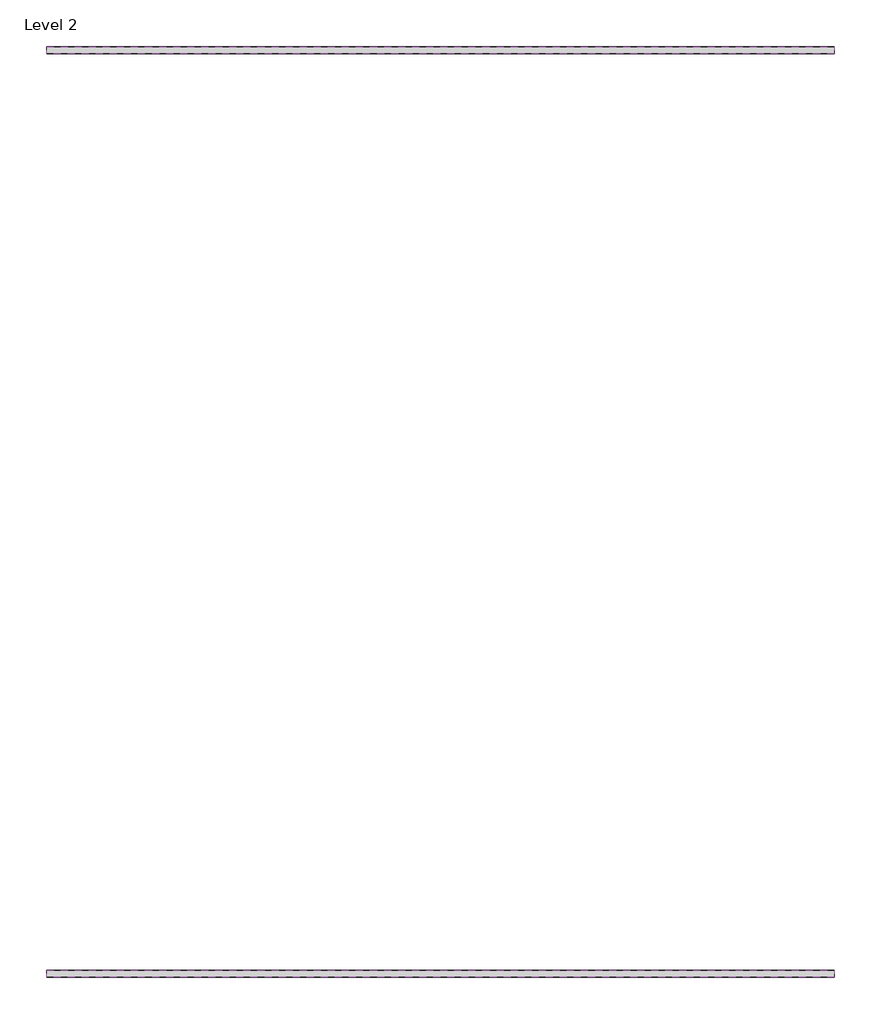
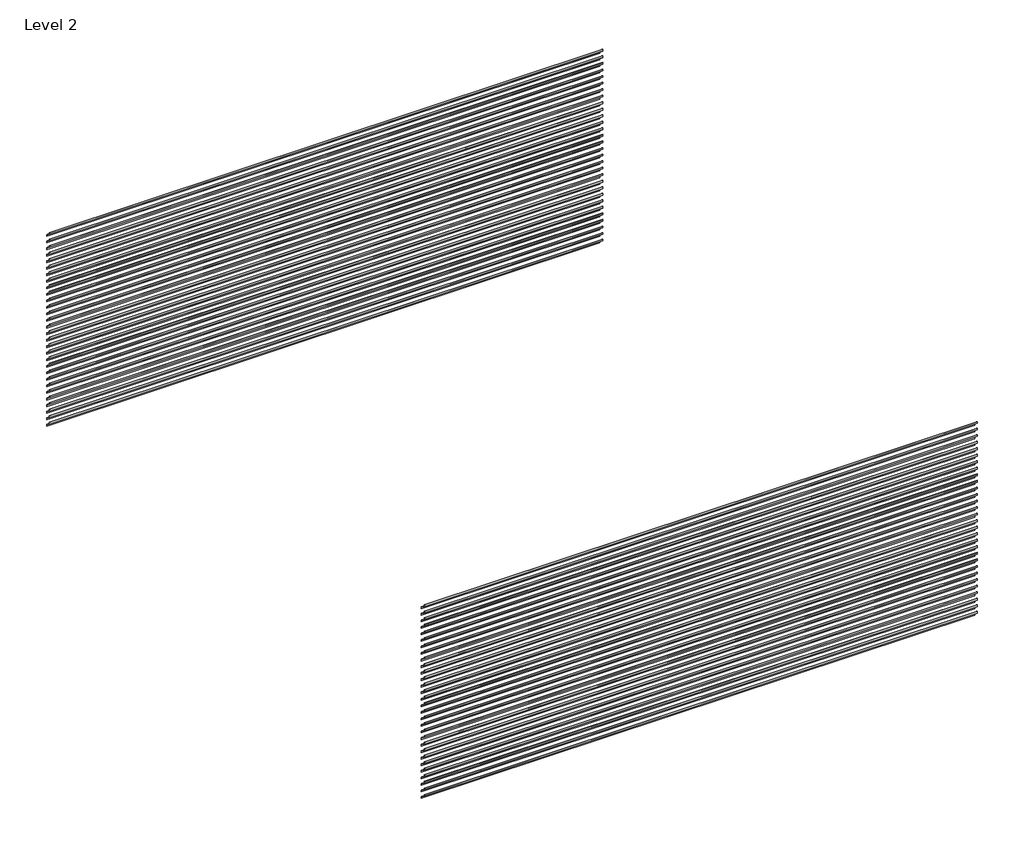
# One storey: 60 proxies.
"""IFC4 building model written with IfcOpenShell, lengths in millimetres."""

from ifc_helpers import new_model, si_unit, frame, origin, place, context, project, spatial, polyline, outline, extrude, element, save

model = new_model("IFC4")

# Units and contexts
model_context = context("Model", 3, world=origin())
ifc_project = project(units=[si_unit("LENGTHUNIT", "METRE", prefix="MILLI")], contexts=[model_context])

# Site, building, storey
site = spatial("IfcSite", under=ifc_project)
building = spatial("IfcBuilding", under=site)
storey = spatial("IfcBuildingStorey", under=building, Name="Level 2", Elevation=3000.0)

# Proxies
placement = place(None, origin())
element("IfcBuildingElementProxy", 1, Name="Wall Sweeps", at=placement, inside=storey, context=model_context, shape_type="SweptSolid", body=[
    extrude(outline(polyline([(12081.0540136, 5268.5), (12081.0540136, 5248.5), (12079.8040136, 5249.2216933), (12079.8040136, 5267.7872415), (12026.0540136, 5305.3158044), (12026.0540136, 5325.0), (12027.3040136, 5325.0), (12027.3040136, 5306.0285629), (12081.0540136, 5268.5)])), frame((466.6208097, 0.0, 0.0), z_axis=(1.0, 0.0, 0.0), x_axis=(0.0, 1.0, 0.0)), (0.0, 0.0, 1.0), 6000.0),
])
element("IfcBuildingElementProxy", 2, Name="Wall Sweeps", at=placement, inside=storey, context=model_context, shape_type="SweptSolid", body=[
    extrude(outline(polyline([(12081.0540136, 5193.5), (12081.0540136, 5173.5), (12079.8040136, 5174.2216933), (12079.8040136, 5192.7872415), (12026.0540136, 5230.3158044), (12026.0540136, 5250.0), (12027.3040136, 5250.0), (12027.3040136, 5231.0285629), (12081.0540136, 5193.5)])), frame((466.6208097, 0.0, 0.0), z_axis=(1.0, 0.0, 0.0), x_axis=(0.0, 1.0, 0.0)), (0.0, 0.0, 1.0), 6000.0),
])
element("IfcBuildingElementProxy", 3, Name="Wall Sweeps", at=placement, inside=storey, context=model_context, shape_type="SweptSolid", body=[
    extrude(outline(polyline([(12081.0540136, 5118.5), (12081.0540136, 5098.5), (12079.8040136, 5099.2216933), (12079.8040136, 5117.7872415), (12026.0540136, 5155.3158044), (12026.0540136, 5175.0), (12027.3040136, 5175.0), (12027.3040136, 5156.0285629), (12081.0540136, 5118.5)])), frame((466.6208097, 0.0, 0.0), z_axis=(1.0, 0.0, 0.0), x_axis=(0.0, 1.0, 0.0)), (0.0, 0.0, 1.0), 6000.0),
])
element("IfcBuildingElementProxy", 4, Name="Wall Sweeps", at=placement, inside=storey, context=model_context, shape_type="SweptSolid", body=[
    extrude(outline(polyline([(12081.0540136, 5043.5), (12081.0540136, 5023.5), (12079.8040136, 5024.2216933), (12079.8040136, 5042.7872415), (12026.0540136, 5080.3158044), (12026.0540136, 5100.0), (12027.3040136, 5100.0), (12027.3040136, 5081.0285629), (12081.0540136, 5043.5)])), frame((466.6208097, 0.0, 0.0), z_axis=(1.0, 0.0, 0.0), x_axis=(0.0, 1.0, 0.0)), (0.0, 0.0, 1.0), 6000.0),
])
element("IfcBuildingElementProxy", 5, Name="Wall Sweeps", at=placement, inside=storey, context=model_context, shape_type="SweptSolid", body=[
    extrude(outline(polyline([(12081.0540136, 4968.5), (12081.0540136, 4948.5), (12079.8040136, 4949.2216933), (12079.8040136, 4967.7872415), (12026.0540136, 5005.3158044), (12026.0540136, 5025.0), (12027.3040136, 5025.0), (12027.3040136, 5006.0285629), (12081.0540136, 4968.5)])), frame((466.6208097, 0.0, 0.0), z_axis=(1.0, 0.0, 0.0), x_axis=(0.0, 1.0, 0.0)), (0.0, 0.0, 1.0), 6000.0),
])
element("IfcBuildingElementProxy", 6, Name="Wall Sweeps", at=placement, inside=storey, context=model_context, shape_type="SweptSolid", body=[
    extrude(outline(polyline([(12081.0540136, 4893.5), (12081.0540136, 4873.5), (12079.8040136, 4874.2216933), (12079.8040136, 4892.7872415), (12026.0540136, 4930.3158044), (12026.0540136, 4950.0), (12027.3040136, 4950.0), (12027.3040136, 4931.0285629), (12081.0540136, 4893.5)])), frame((466.6208097, 0.0, 0.0), z_axis=(1.0, 0.0, 0.0), x_axis=(0.0, 1.0, 0.0)), (0.0, 0.0, 1.0), 6000.0),
])
element("IfcBuildingElementProxy", 7, Name="Wall Sweeps", at=placement, inside=storey, context=model_context, shape_type="SweptSolid", body=[
    extrude(outline(polyline([(12081.0540136, 4818.5), (12081.0540136, 4798.5), (12079.8040136, 4799.2216933), (12079.8040136, 4817.7872415), (12026.0540136, 4855.3158044), (12026.0540136, 4875.0), (12027.3040136, 4875.0), (12027.3040136, 4856.0285629), (12081.0540136, 4818.5)])), frame((466.6208097, 0.0, 0.0), z_axis=(1.0, 0.0, 0.0), x_axis=(0.0, 1.0, 0.0)), (0.0, 0.0, 1.0), 6000.0),
])
element("IfcBuildingElementProxy", 8, Name="Wall Sweeps", at=placement, inside=storey, context=model_context, shape_type="SweptSolid", body=[
    extrude(outline(polyline([(12081.0540136, 4743.5), (12081.0540136, 4723.5), (12079.8040136, 4724.2216933), (12079.8040136, 4742.7872415), (12026.0540136, 4780.3158044), (12026.0540136, 4800.0), (12027.3040136, 4800.0), (12027.3040136, 4781.0285629), (12081.0540136, 4743.5)])), frame((466.6208097, 0.0, 0.0), z_axis=(1.0, 0.0, 0.0), x_axis=(0.0, 1.0, 0.0)), (0.0, 0.0, 1.0), 6000.0),
])
element("IfcBuildingElementProxy", 9, Name="Wall Sweeps", at=placement, inside=storey, context=model_context, shape_type="SweptSolid", body=[
    extrude(outline(polyline([(12081.0540136, 4668.5), (12081.0540136, 4648.5), (12079.8040136, 4649.2216933), (12079.8040136, 4667.7872415), (12026.0540136, 4705.3158044), (12026.0540136, 4725.0), (12027.3040136, 4725.0), (12027.3040136, 4706.0285629), (12081.0540136, 4668.5)])), frame((466.6208097, 0.0, 0.0), z_axis=(1.0, 0.0, 0.0), x_axis=(0.0, 1.0, 0.0)), (0.0, 0.0, 1.0), 6000.0),
])
element("IfcBuildingElementProxy", 10, Name="Wall Sweeps", at=placement, inside=storey, context=model_context, shape_type="SweptSolid", body=[
    extrude(outline(polyline([(12081.0540136, 4593.5), (12081.0540136, 4573.5), (12079.8040136, 4574.2216933), (12079.8040136, 4592.7872415), (12026.0540136, 4630.3158044), (12026.0540136, 4650.0), (12027.3040136, 4650.0), (12027.3040136, 4631.0285629), (12081.0540136, 4593.5)])), frame((466.6208097, 0.0, 0.0), z_axis=(1.0, 0.0, 0.0), x_axis=(0.0, 1.0, 0.0)), (0.0, 0.0, 1.0), 6000.0),
])
element("IfcBuildingElementProxy", 11, Name="Wall Sweeps", at=placement, inside=storey, context=model_context, shape_type="SweptSolid", body=[
    extrude(outline(polyline([(12081.0540136, 4518.5), (12081.0540136, 4498.5), (12079.8040136, 4499.2216933), (12079.8040136, 4517.7872415), (12026.0540136, 4555.3158044), (12026.0540136, 4575.0), (12027.3040136, 4575.0), (12027.3040136, 4556.0285629), (12081.0540136, 4518.5)])), frame((466.6208097, 0.0, 0.0), z_axis=(1.0, 0.0, 0.0), x_axis=(0.0, 1.0, 0.0)), (0.0, 0.0, 1.0), 6000.0),
])
element("IfcBuildingElementProxy", 12, Name="Wall Sweeps", at=placement, inside=storey, context=model_context, shape_type="SweptSolid", body=[
    extrude(outline(polyline([(12081.0540136, 4443.5), (12081.0540136, 4423.5), (12079.8040136, 4424.2216933), (12079.8040136, 4442.7872415), (12026.0540136, 4480.3158044), (12026.0540136, 4500.0), (12027.3040136, 4500.0), (12027.3040136, 4481.0285629), (12081.0540136, 4443.5)])), frame((466.6208097, 0.0, 0.0), z_axis=(1.0, 0.0, 0.0), x_axis=(0.0, 1.0, 0.0)), (0.0, 0.0, 1.0), 6000.0),
])
element("IfcBuildingElementProxy", 13, Name="Wall Sweeps", at=placement, inside=storey, context=model_context, shape_type="SweptSolid", body=[
    extrude(outline(polyline([(12081.0540136, 4368.5), (12081.0540136, 4348.5), (12079.8040136, 4349.2216933), (12079.8040136, 4367.7872415), (12026.0540136, 4405.3158044), (12026.0540136, 4425.0), (12027.3040136, 4425.0), (12027.3040136, 4406.0285629), (12081.0540136, 4368.5)])), frame((466.6208097, 0.0, 0.0), z_axis=(1.0, 0.0, 0.0), x_axis=(0.0, 1.0, 0.0)), (0.0, 0.0, 1.0), 6000.0),
])
element("IfcBuildingElementProxy", 14, Name="Wall Sweeps", at=placement, inside=storey, context=model_context, shape_type="SweptSolid", body=[
    extrude(outline(polyline([(12081.0540136, 4293.5), (12081.0540136, 4273.5), (12079.8040136, 4274.2216933), (12079.8040136, 4292.7872415), (12026.0540136, 4330.3158044), (12026.0540136, 4350.0), (12027.3040136, 4350.0), (12027.3040136, 4331.0285629), (12081.0540136, 4293.5)])), frame((466.6208097, 0.0, 0.0), z_axis=(1.0, 0.0, 0.0), x_axis=(0.0, 1.0, 0.0)), (0.0, 0.0, 1.0), 6000.0),
])
element("IfcBuildingElementProxy", 15, Name="Wall Sweeps", at=placement, inside=storey, context=model_context, shape_type="SweptSolid", body=[
    extrude(outline(polyline([(12081.0540136, 4218.5), (12081.0540136, 4198.5), (12079.8040136, 4199.2216933), (12079.8040136, 4217.7872415), (12026.0540136, 4255.3158044), (12026.0540136, 4275.0), (12027.3040136, 4275.0), (12027.3040136, 4256.0285629), (12081.0540136, 4218.5)])), frame((466.6208097, 0.0, 0.0), z_axis=(1.0, 0.0, 0.0), x_axis=(0.0, 1.0, 0.0)), (0.0, 0.0, 1.0), 6000.0),
])
element("IfcBuildingElementProxy", 16, Name="Wall Sweeps", at=placement, inside=storey, context=model_context, shape_type="SweptSolid", body=[
    extrude(outline(polyline([(12081.0540136, 4143.5), (12081.0540136, 4123.5), (12079.8040136, 4124.2216933), (12079.8040136, 4142.7872415), (12026.0540136, 4180.3158044), (12026.0540136, 4200.0), (12027.3040136, 4200.0), (12027.3040136, 4181.0285629), (12081.0540136, 4143.5)])), frame((466.6208097, 0.0, 0.0), z_axis=(1.0, 0.0, 0.0), x_axis=(0.0, 1.0, 0.0)), (0.0, 0.0, 1.0), 6000.0),
])
element("IfcBuildingElementProxy", 17, Name="Wall Sweeps", at=placement, inside=storey, context=model_context, shape_type="SweptSolid", body=[
    extrude(outline(polyline([(12081.0540136, 4068.5), (12081.0540136, 4048.5), (12079.8040136, 4049.2216933), (12079.8040136, 4067.7872415), (12026.0540136, 4105.3158044), (12026.0540136, 4125.0), (12027.3040136, 4125.0), (12027.3040136, 4106.0285629), (12081.0540136, 4068.5)])), frame((466.6208097, 0.0, 0.0), z_axis=(1.0, 0.0, 0.0), x_axis=(0.0, 1.0, 0.0)), (0.0, 0.0, 1.0), 6000.0),
])
element("IfcBuildingElementProxy", 18, Name="Wall Sweeps", at=placement, inside=storey, context=model_context, shape_type="SweptSolid", body=[
    extrude(outline(polyline([(12081.0540136, 3993.5), (12081.0540136, 3973.5), (12079.8040136, 3974.2216933), (12079.8040136, 3992.7872415), (12026.0540136, 4030.3158044), (12026.0540136, 4050.0), (12027.3040136, 4050.0), (12027.3040136, 4031.0285629), (12081.0540136, 3993.5)])), frame((466.6208097, 0.0, 0.0), z_axis=(1.0, 0.0, 0.0), x_axis=(0.0, 1.0, 0.0)), (0.0, 0.0, 1.0), 6000.0),
])
element("IfcBuildingElementProxy", 19, Name="Wall Sweeps", at=placement, inside=storey, context=model_context, shape_type="SweptSolid", body=[
    extrude(outline(polyline([(12081.0540136, 3918.5), (12081.0540136, 3898.5), (12079.8040136, 3899.2216933), (12079.8040136, 3917.7872415), (12026.0540136, 3955.3158044), (12026.0540136, 3975.0), (12027.3040136, 3975.0), (12027.3040136, 3956.0285629), (12081.0540136, 3918.5)])), frame((466.6208097, 0.0, 0.0), z_axis=(1.0, 0.0, 0.0), x_axis=(0.0, 1.0, 0.0)), (0.0, 0.0, 1.0), 6000.0),
])
element("IfcBuildingElementProxy", 20, Name="Wall Sweeps", at=placement, inside=storey, context=model_context, shape_type="SweptSolid", body=[
    extrude(outline(polyline([(12081.0540136, 3843.5), (12081.0540136, 3823.5), (12079.8040136, 3824.2216933), (12079.8040136, 3842.7872415), (12026.0540136, 3880.3158044), (12026.0540136, 3900.0), (12027.3040136, 3900.0), (12027.3040136, 3881.0285629), (12081.0540136, 3843.5)])), frame((466.6208097, 0.0, 0.0), z_axis=(1.0, 0.0, 0.0), x_axis=(0.0, 1.0, 0.0)), (0.0, 0.0, 1.0), 6000.0),
])
element("IfcBuildingElementProxy", 21, Name="Wall Sweeps", at=placement, inside=storey, context=model_context, shape_type="SweptSolid", body=[
    extrude(outline(polyline([(12081.0540136, 3768.5), (12081.0540136, 3748.5), (12079.8040136, 3749.2216933), (12079.8040136, 3767.7872415), (12026.0540136, 3805.3158044), (12026.0540136, 3825.0), (12027.3040136, 3825.0), (12027.3040136, 3806.0285629), (12081.0540136, 3768.5)])), frame((466.6208097, 0.0, 0.0), z_axis=(1.0, 0.0, 0.0), x_axis=(0.0, 1.0, 0.0)), (0.0, 0.0, 1.0), 6000.0),
])
element("IfcBuildingElementProxy", 22, Name="Wall Sweeps", at=placement, inside=storey, context=model_context, shape_type="SweptSolid", body=[
    extrude(outline(polyline([(12081.0540136, 3693.5), (12081.0540136, 3673.5), (12079.8040136, 3674.2216933), (12079.8040136, 3692.7872415), (12026.0540136, 3730.3158044), (12026.0540136, 3750.0), (12027.3040136, 3750.0), (12027.3040136, 3731.0285629), (12081.0540136, 3693.5)])), frame((466.6208097, 0.0, 0.0), z_axis=(1.0, 0.0, 0.0), x_axis=(0.0, 1.0, 0.0)), (0.0, 0.0, 1.0), 6000.0),
])
element("IfcBuildingElementProxy", 23, Name="Wall Sweeps", at=placement, inside=storey, context=model_context, shape_type="SweptSolid", body=[
    extrude(outline(polyline([(12081.0540136, 3618.5), (12081.0540136, 3598.5), (12079.8040136, 3599.2216933), (12079.8040136, 3617.7872415), (12026.0540136, 3655.3158044), (12026.0540136, 3675.0), (12027.3040136, 3675.0), (12027.3040136, 3656.0285629), (12081.0540136, 3618.5)])), frame((466.6208097, 0.0, 0.0), z_axis=(1.0, 0.0, 0.0), x_axis=(0.0, 1.0, 0.0)), (0.0, 0.0, 1.0), 6000.0),
])
element("IfcBuildingElementProxy", 24, Name="Wall Sweeps", at=placement, inside=storey, context=model_context, shape_type="SweptSolid", body=[
    extrude(outline(polyline([(12081.0540136, 3543.5), (12081.0540136, 3523.5), (12079.8040136, 3524.2216933), (12079.8040136, 3542.7872415), (12026.0540136, 3580.3158044), (12026.0540136, 3600.0), (12027.3040136, 3600.0), (12027.3040136, 3581.0285629), (12081.0540136, 3543.5)])), frame((466.6208097, 0.0, 0.0), z_axis=(1.0, 0.0, 0.0), x_axis=(0.0, 1.0, 0.0)), (0.0, 0.0, 1.0), 6000.0),
])
element("IfcBuildingElementProxy", 25, Name="Wall Sweeps", at=placement, inside=storey, context=model_context, shape_type="SweptSolid", body=[
    extrude(outline(polyline([(12081.0540136, 3468.5), (12081.0540136, 3448.5), (12079.8040136, 3449.2216933), (12079.8040136, 3467.7872415), (12026.0540136, 3505.3158044), (12026.0540136, 3525.0), (12027.3040136, 3525.0), (12027.3040136, 3506.0285629), (12081.0540136, 3468.5)])), frame((466.6208097, 0.0, 0.0), z_axis=(1.0, 0.0, 0.0), x_axis=(0.0, 1.0, 0.0)), (0.0, 0.0, 1.0), 6000.0),
])
element("IfcBuildingElementProxy", 26, Name="Wall Sweeps", at=placement, inside=storey, context=model_context, shape_type="SweptSolid", body=[
    extrude(outline(polyline([(12081.0540136, 3393.5), (12081.0540136, 3373.5), (12079.8040136, 3374.2216933), (12079.8040136, 3392.7872415), (12026.0540136, 3430.3158044), (12026.0540136, 3450.0), (12027.3040136, 3450.0), (12027.3040136, 3431.0285629), (12081.0540136, 3393.5)])), frame((466.6208097, 0.0, 0.0), z_axis=(1.0, 0.0, 0.0), x_axis=(0.0, 1.0, 0.0)), (0.0, 0.0, 1.0), 6000.0),
])
element("IfcBuildingElementProxy", 27, Name="Wall Sweeps", at=placement, inside=storey, context=model_context, shape_type="SweptSolid", body=[
    extrude(outline(polyline([(12081.0540136, 3318.5), (12081.0540136, 3298.5), (12079.8040136, 3299.2216933), (12079.8040136, 3317.7872415), (12026.0540136, 3355.3158044), (12026.0540136, 3375.0), (12027.3040136, 3375.0), (12027.3040136, 3356.0285629), (12081.0540136, 3318.5)])), frame((466.6208097, 0.0, 0.0), z_axis=(1.0, 0.0, 0.0), x_axis=(0.0, 1.0, 0.0)), (0.0, 0.0, 1.0), 6000.0),
])
element("IfcBuildingElementProxy", 28, Name="Wall Sweeps", at=placement, inside=storey, context=model_context, shape_type="SweptSolid", body=[
    extrude(outline(polyline([(12081.0540136, 3243.5), (12081.0540136, 3223.5), (12079.8040136, 3224.2216933), (12079.8040136, 3242.7872415), (12026.0540136, 3280.3158044), (12026.0540136, 3300.0), (12027.3040136, 3300.0), (12027.3040136, 3281.0285629), (12081.0540136, 3243.5)])), frame((466.6208097, 0.0, 0.0), z_axis=(1.0, 0.0, 0.0), x_axis=(0.0, 1.0, 0.0)), (0.0, 0.0, 1.0), 6000.0),
])
element("IfcBuildingElementProxy", 29, Name="Wall Sweeps", at=placement, inside=storey, context=model_context, shape_type="SweptSolid", body=[
    extrude(outline(polyline([(12081.0540136, 3168.5), (12081.0540136, 3148.5), (12079.8040136, 3149.2216933), (12079.8040136, 3167.7872415), (12026.0540136, 3205.3158044), (12026.0540136, 3225.0), (12027.3040136, 3225.0), (12027.3040136, 3206.0285629), (12081.0540136, 3168.5)])), frame((466.6208097, 0.0, 0.0), z_axis=(1.0, 0.0, 0.0), x_axis=(0.0, 1.0, 0.0)), (0.0, 0.0, 1.0), 6000.0),
])
element("IfcBuildingElementProxy", 30, Name="Wall Sweeps", at=placement, inside=storey, context=model_context, shape_type="SweptSolid", body=[
    extrude(outline(polyline([(12081.0540136, 3093.5), (12081.0540136, 3073.5), (12079.8040136, 3074.2216933), (12079.8040136, 3092.7872415), (12026.0540136, 3130.3158044), (12026.0540136, 3150.0), (12027.3040136, 3150.0), (12027.3040136, 3131.0285629), (12081.0540136, 3093.5)])), frame((466.6208097, 0.0, 0.0), z_axis=(1.0, 0.0, 0.0), x_axis=(0.0, 1.0, 0.0)), (0.0, 0.0, 1.0), 6000.0),
])
element("IfcBuildingElementProxy", 31, Name="Wall Sweeps", at=placement, inside=storey, context=model_context, shape_type="SweptSolid", body=[
    extrude(outline(polyline([(5044.0270068, 5268.5), (5044.0270068, 5248.5), (5042.7770068, 5249.2216933), (5042.7770068, 5267.7872415), (4989.0270068, 5305.3158044), (4989.0270068, 5325.0), (4990.2770068, 5325.0), (4990.2770068, 5306.0285629), (5044.0270068, 5268.5)])), frame((466.6208097, 0.0, 0.0), z_axis=(1.0, 0.0, 0.0), x_axis=(0.0, 1.0, 0.0)), (0.0, 0.0, 1.0), 6000.0),
])
element("IfcBuildingElementProxy", 32, Name="Wall Sweeps", at=placement, inside=storey, context=model_context, shape_type="SweptSolid", body=[
    extrude(outline(polyline([(5044.0270068, 5193.5), (5044.0270068, 5173.5), (5042.7770068, 5174.2216933), (5042.7770068, 5192.7872415), (4989.0270068, 5230.3158044), (4989.0270068, 5250.0), (4990.2770068, 5250.0), (4990.2770068, 5231.0285629), (5044.0270068, 5193.5)])), frame((466.6208097, 0.0, 0.0), z_axis=(1.0, 0.0, 0.0), x_axis=(0.0, 1.0, 0.0)), (0.0, 0.0, 1.0), 6000.0),
])
element("IfcBuildingElementProxy", 33, Name="Wall Sweeps", at=placement, inside=storey, context=model_context, shape_type="SweptSolid", body=[
    extrude(outline(polyline([(5044.0270068, 5118.5), (5044.0270068, 5098.5), (5042.7770068, 5099.2216933), (5042.7770068, 5117.7872415), (4989.0270068, 5155.3158044), (4989.0270068, 5175.0), (4990.2770068, 5175.0), (4990.2770068, 5156.0285629), (5044.0270068, 5118.5)])), frame((466.6208097, 0.0, 0.0), z_axis=(1.0, 0.0, 0.0), x_axis=(0.0, 1.0, 0.0)), (0.0, 0.0, 1.0), 6000.0),
])
element("IfcBuildingElementProxy", 34, Name="Wall Sweeps", at=placement, inside=storey, context=model_context, shape_type="SweptSolid", body=[
    extrude(outline(polyline([(5044.0270068, 5043.5), (5044.0270068, 5023.5), (5042.7770068, 5024.2216933), (5042.7770068, 5042.7872415), (4989.0270068, 5080.3158044), (4989.0270068, 5100.0), (4990.2770068, 5100.0), (4990.2770068, 5081.0285629), (5044.0270068, 5043.5)])), frame((466.6208097, 0.0, 0.0), z_axis=(1.0, 0.0, 0.0), x_axis=(0.0, 1.0, 0.0)), (0.0, 0.0, 1.0), 6000.0),
])
element("IfcBuildingElementProxy", 35, Name="Wall Sweeps", at=placement, inside=storey, context=model_context, shape_type="SweptSolid", body=[
    extrude(outline(polyline([(5044.0270068, 4968.5), (5044.0270068, 4948.5), (5042.7770068, 4949.2216933), (5042.7770068, 4967.7872415), (4989.0270068, 5005.3158044), (4989.0270068, 5025.0), (4990.2770068, 5025.0), (4990.2770068, 5006.0285629), (5044.0270068, 4968.5)])), frame((466.6208097, 0.0, 0.0), z_axis=(1.0, 0.0, 0.0), x_axis=(0.0, 1.0, 0.0)), (0.0, 0.0, 1.0), 6000.0),
])
element("IfcBuildingElementProxy", 36, Name="Wall Sweeps", at=placement, inside=storey, context=model_context, shape_type="SweptSolid", body=[
    extrude(outline(polyline([(5044.0270068, 4893.5), (5044.0270068, 4873.5), (5042.7770068, 4874.2216933), (5042.7770068, 4892.7872415), (4989.0270068, 4930.3158044), (4989.0270068, 4950.0), (4990.2770068, 4950.0), (4990.2770068, 4931.0285629), (5044.0270068, 4893.5)])), frame((466.6208097, 0.0, 0.0), z_axis=(1.0, 0.0, 0.0), x_axis=(0.0, 1.0, 0.0)), (0.0, 0.0, 1.0), 6000.0),
])
element("IfcBuildingElementProxy", 37, Name="Wall Sweeps", at=placement, inside=storey, context=model_context, shape_type="SweptSolid", body=[
    extrude(outline(polyline([(5044.0270068, 4818.5), (5044.0270068, 4798.5), (5042.7770068, 4799.2216933), (5042.7770068, 4817.7872415), (4989.0270068, 4855.3158044), (4989.0270068, 4875.0), (4990.2770068, 4875.0), (4990.2770068, 4856.0285629), (5044.0270068, 4818.5)])), frame((466.6208097, 0.0, 0.0), z_axis=(1.0, 0.0, 0.0), x_axis=(0.0, 1.0, 0.0)), (0.0, 0.0, 1.0), 6000.0),
])
element("IfcBuildingElementProxy", 38, Name="Wall Sweeps", at=placement, inside=storey, context=model_context, shape_type="SweptSolid", body=[
    extrude(outline(polyline([(5044.0270068, 4743.5), (5044.0270068, 4723.5), (5042.7770068, 4724.2216933), (5042.7770068, 4742.7872415), (4989.0270068, 4780.3158044), (4989.0270068, 4800.0), (4990.2770068, 4800.0), (4990.2770068, 4781.0285629), (5044.0270068, 4743.5)])), frame((466.6208097, 0.0, 0.0), z_axis=(1.0, 0.0, 0.0), x_axis=(0.0, 1.0, 0.0)), (0.0, 0.0, 1.0), 6000.0),
])
element("IfcBuildingElementProxy", 39, Name="Wall Sweeps", at=placement, inside=storey, context=model_context, shape_type="SweptSolid", body=[
    extrude(outline(polyline([(5044.0270068, 4668.5), (5044.0270068, 4648.5), (5042.7770068, 4649.2216933), (5042.7770068, 4667.7872415), (4989.0270068, 4705.3158044), (4989.0270068, 4725.0), (4990.2770068, 4725.0), (4990.2770068, 4706.0285629), (5044.0270068, 4668.5)])), frame((466.6208097, 0.0, 0.0), z_axis=(1.0, 0.0, 0.0), x_axis=(0.0, 1.0, 0.0)), (0.0, 0.0, 1.0), 6000.0),
])
element("IfcBuildingElementProxy", 40, Name="Wall Sweeps", at=placement, inside=storey, context=model_context, shape_type="SweptSolid", body=[
    extrude(outline(polyline([(5044.0270068, 4593.5), (5044.0270068, 4573.5), (5042.7770068, 4574.2216933), (5042.7770068, 4592.7872415), (4989.0270068, 4630.3158044), (4989.0270068, 4650.0), (4990.2770068, 4650.0), (4990.2770068, 4631.0285629), (5044.0270068, 4593.5)])), frame((466.6208097, 0.0, 0.0), z_axis=(1.0, 0.0, 0.0), x_axis=(0.0, 1.0, 0.0)), (0.0, 0.0, 1.0), 6000.0),
])
element("IfcBuildingElementProxy", 41, Name="Wall Sweeps", at=placement, inside=storey, context=model_context, shape_type="SweptSolid", body=[
    extrude(outline(polyline([(5044.0270068, 4518.5), (5044.0270068, 4498.5), (5042.7770068, 4499.2216933), (5042.7770068, 4517.7872415), (4989.0270068, 4555.3158044), (4989.0270068, 4575.0), (4990.2770068, 4575.0), (4990.2770068, 4556.0285629), (5044.0270068, 4518.5)])), frame((466.6208097, 0.0, 0.0), z_axis=(1.0, 0.0, 0.0), x_axis=(0.0, 1.0, 0.0)), (0.0, 0.0, 1.0), 6000.0),
])
element("IfcBuildingElementProxy", 42, Name="Wall Sweeps", at=placement, inside=storey, context=model_context, shape_type="SweptSolid", body=[
    extrude(outline(polyline([(5044.0270068, 4443.5), (5044.0270068, 4423.5), (5042.7770068, 4424.2216933), (5042.7770068, 4442.7872415), (4989.0270068, 4480.3158044), (4989.0270068, 4500.0), (4990.2770068, 4500.0), (4990.2770068, 4481.0285629), (5044.0270068, 4443.5)])), frame((466.6208097, 0.0, 0.0), z_axis=(1.0, 0.0, 0.0), x_axis=(0.0, 1.0, 0.0)), (0.0, 0.0, 1.0), 6000.0),
])
element("IfcBuildingElementProxy", 43, Name="Wall Sweeps", at=placement, inside=storey, context=model_context, shape_type="SweptSolid", body=[
    extrude(outline(polyline([(5044.0270068, 4368.5), (5044.0270068, 4348.5), (5042.7770068, 4349.2216933), (5042.7770068, 4367.7872415), (4989.0270068, 4405.3158044), (4989.0270068, 4425.0), (4990.2770068, 4425.0), (4990.2770068, 4406.0285629), (5044.0270068, 4368.5)])), frame((466.6208097, 0.0, 0.0), z_axis=(1.0, 0.0, 0.0), x_axis=(0.0, 1.0, 0.0)), (0.0, 0.0, 1.0), 6000.0),
])
element("IfcBuildingElementProxy", 44, Name="Wall Sweeps", at=placement, inside=storey, context=model_context, shape_type="SweptSolid", body=[
    extrude(outline(polyline([(5044.0270068, 4293.5), (5044.0270068, 4273.5), (5042.7770068, 4274.2216933), (5042.7770068, 4292.7872415), (4989.0270068, 4330.3158044), (4989.0270068, 4350.0), (4990.2770068, 4350.0), (4990.2770068, 4331.0285629), (5044.0270068, 4293.5)])), frame((466.6208097, 0.0, 0.0), z_axis=(1.0, 0.0, 0.0), x_axis=(0.0, 1.0, 0.0)), (0.0, 0.0, 1.0), 6000.0),
])
element("IfcBuildingElementProxy", 45, Name="Wall Sweeps", at=placement, inside=storey, context=model_context, shape_type="SweptSolid", body=[
    extrude(outline(polyline([(5044.0270068, 4218.5), (5044.0270068, 4198.5), (5042.7770068, 4199.2216933), (5042.7770068, 4217.7872415), (4989.0270068, 4255.3158044), (4989.0270068, 4275.0), (4990.2770068, 4275.0), (4990.2770068, 4256.0285629), (5044.0270068, 4218.5)])), frame((466.6208097, 0.0, 0.0), z_axis=(1.0, 0.0, 0.0), x_axis=(0.0, 1.0, 0.0)), (0.0, 0.0, 1.0), 6000.0),
])
element("IfcBuildingElementProxy", 46, Name="Wall Sweeps", at=placement, inside=storey, context=model_context, shape_type="SweptSolid", body=[
    extrude(outline(polyline([(5044.0270068, 4143.5), (5044.0270068, 4123.5), (5042.7770068, 4124.2216933), (5042.7770068, 4142.7872415), (4989.0270068, 4180.3158044), (4989.0270068, 4200.0), (4990.2770068, 4200.0), (4990.2770068, 4181.0285629), (5044.0270068, 4143.5)])), frame((466.6208097, 0.0, 0.0), z_axis=(1.0, 0.0, 0.0), x_axis=(0.0, 1.0, 0.0)), (0.0, 0.0, 1.0), 6000.0),
])
element("IfcBuildingElementProxy", 47, Name="Wall Sweeps", at=placement, inside=storey, context=model_context, shape_type="SweptSolid", body=[
    extrude(outline(polyline([(5044.0270068, 4068.5), (5044.0270068, 4048.5), (5042.7770068, 4049.2216933), (5042.7770068, 4067.7872415), (4989.0270068, 4105.3158044), (4989.0270068, 4125.0), (4990.2770068, 4125.0), (4990.2770068, 4106.0285629), (5044.0270068, 4068.5)])), frame((466.6208097, 0.0, 0.0), z_axis=(1.0, 0.0, 0.0), x_axis=(0.0, 1.0, 0.0)), (0.0, 0.0, 1.0), 6000.0),
])
element("IfcBuildingElementProxy", 48, Name="Wall Sweeps", at=placement, inside=storey, context=model_context, shape_type="SweptSolid", body=[
    extrude(outline(polyline([(5044.0270068, 3993.5), (5044.0270068, 3973.5), (5042.7770068, 3974.2216933), (5042.7770068, 3992.7872415), (4989.0270068, 4030.3158044), (4989.0270068, 4050.0), (4990.2770068, 4050.0), (4990.2770068, 4031.0285629), (5044.0270068, 3993.5)])), frame((466.6208097, 0.0, 0.0), z_axis=(1.0, 0.0, 0.0), x_axis=(0.0, 1.0, 0.0)), (0.0, 0.0, 1.0), 6000.0),
])
element("IfcBuildingElementProxy", 49, Name="Wall Sweeps", at=placement, inside=storey, context=model_context, shape_type="SweptSolid", body=[
    extrude(outline(polyline([(5044.0270068, 3918.5), (5044.0270068, 3898.5), (5042.7770068, 3899.2216933), (5042.7770068, 3917.7872415), (4989.0270068, 3955.3158044), (4989.0270068, 3975.0), (4990.2770068, 3975.0), (4990.2770068, 3956.0285629), (5044.0270068, 3918.5)])), frame((466.6208097, 0.0, 0.0), z_axis=(1.0, 0.0, 0.0), x_axis=(0.0, 1.0, 0.0)), (0.0, 0.0, 1.0), 6000.0),
])
element("IfcBuildingElementProxy", 50, Name="Wall Sweeps", at=placement, inside=storey, context=model_context, shape_type="SweptSolid", body=[
    extrude(outline(polyline([(5044.0270068, 3843.5), (5044.0270068, 3823.5), (5042.7770068, 3824.2216933), (5042.7770068, 3842.7872415), (4989.0270068, 3880.3158044), (4989.0270068, 3900.0), (4990.2770068, 3900.0), (4990.2770068, 3881.0285629), (5044.0270068, 3843.5)])), frame((466.6208097, 0.0, 0.0), z_axis=(1.0, 0.0, 0.0), x_axis=(0.0, 1.0, 0.0)), (0.0, 0.0, 1.0), 6000.0),
])
element("IfcBuildingElementProxy", 51, Name="Wall Sweeps", at=placement, inside=storey, context=model_context, shape_type="SweptSolid", body=[
    extrude(outline(polyline([(5044.0270068, 3768.5), (5044.0270068, 3748.5), (5042.7770068, 3749.2216933), (5042.7770068, 3767.7872415), (4989.0270068, 3805.3158044), (4989.0270068, 3825.0), (4990.2770068, 3825.0), (4990.2770068, 3806.0285629), (5044.0270068, 3768.5)])), frame((466.6208097, 0.0, 0.0), z_axis=(1.0, 0.0, 0.0), x_axis=(0.0, 1.0, 0.0)), (0.0, 0.0, 1.0), 6000.0),
])
element("IfcBuildingElementProxy", 52, Name="Wall Sweeps", at=placement, inside=storey, context=model_context, shape_type="SweptSolid", body=[
    extrude(outline(polyline([(5044.0270068, 3693.5), (5044.0270068, 3673.5), (5042.7770068, 3674.2216933), (5042.7770068, 3692.7872415), (4989.0270068, 3730.3158044), (4989.0270068, 3750.0), (4990.2770068, 3750.0), (4990.2770068, 3731.0285629), (5044.0270068, 3693.5)])), frame((466.6208097, 0.0, 0.0), z_axis=(1.0, 0.0, 0.0), x_axis=(0.0, 1.0, 0.0)), (0.0, 0.0, 1.0), 6000.0),
])
element("IfcBuildingElementProxy", 53, Name="Wall Sweeps", at=placement, inside=storey, context=model_context, shape_type="SweptSolid", body=[
    extrude(outline(polyline([(5044.0270068, 3618.5), (5044.0270068, 3598.5), (5042.7770068, 3599.2216933), (5042.7770068, 3617.7872415), (4989.0270068, 3655.3158044), (4989.0270068, 3675.0), (4990.2770068, 3675.0), (4990.2770068, 3656.0285629), (5044.0270068, 3618.5)])), frame((466.6208097, 0.0, 0.0), z_axis=(1.0, 0.0, 0.0), x_axis=(0.0, 1.0, 0.0)), (0.0, 0.0, 1.0), 6000.0),
])
element("IfcBuildingElementProxy", 54, Name="Wall Sweeps", at=placement, inside=storey, context=model_context, shape_type="SweptSolid", body=[
    extrude(outline(polyline([(5044.0270068, 3543.5), (5044.0270068, 3523.5), (5042.7770068, 3524.2216933), (5042.7770068, 3542.7872415), (4989.0270068, 3580.3158044), (4989.0270068, 3600.0), (4990.2770068, 3600.0), (4990.2770068, 3581.0285629), (5044.0270068, 3543.5)])), frame((466.6208097, 0.0, 0.0), z_axis=(1.0, 0.0, 0.0), x_axis=(0.0, 1.0, 0.0)), (0.0, 0.0, 1.0), 6000.0),
])
element("IfcBuildingElementProxy", 55, Name="Wall Sweeps", at=placement, inside=storey, context=model_context, shape_type="SweptSolid", body=[
    extrude(outline(polyline([(5044.0270068, 3468.5), (5044.0270068, 3448.5), (5042.7770068, 3449.2216933), (5042.7770068, 3467.7872415), (4989.0270068, 3505.3158044), (4989.0270068, 3525.0), (4990.2770068, 3525.0), (4990.2770068, 3506.0285629), (5044.0270068, 3468.5)])), frame((466.6208097, 0.0, 0.0), z_axis=(1.0, 0.0, 0.0), x_axis=(0.0, 1.0, 0.0)), (0.0, 0.0, 1.0), 6000.0),
])
element("IfcBuildingElementProxy", 56, Name="Wall Sweeps", at=placement, inside=storey, context=model_context, shape_type="SweptSolid", body=[
    extrude(outline(polyline([(5044.0270068, 3393.5), (5044.0270068, 3373.5), (5042.7770068, 3374.2216933), (5042.7770068, 3392.7872415), (4989.0270068, 3430.3158044), (4989.0270068, 3450.0), (4990.2770068, 3450.0), (4990.2770068, 3431.0285629), (5044.0270068, 3393.5)])), frame((466.6208097, 0.0, 0.0), z_axis=(1.0, 0.0, 0.0), x_axis=(0.0, 1.0, 0.0)), (0.0, 0.0, 1.0), 6000.0),
])
element("IfcBuildingElementProxy", 57, Name="Wall Sweeps", at=placement, inside=storey, context=model_context, shape_type="SweptSolid", body=[
    extrude(outline(polyline([(5044.0270068, 3318.5), (5044.0270068, 3298.5), (5042.7770068, 3299.2216933), (5042.7770068, 3317.7872415), (4989.0270068, 3355.3158044), (4989.0270068, 3375.0), (4990.2770068, 3375.0), (4990.2770068, 3356.0285629), (5044.0270068, 3318.5)])), frame((466.6208097, 0.0, 0.0), z_axis=(1.0, 0.0, 0.0), x_axis=(0.0, 1.0, 0.0)), (0.0, 0.0, 1.0), 6000.0),
])
element("IfcBuildingElementProxy", 58, Name="Wall Sweeps", at=placement, inside=storey, context=model_context, shape_type="SweptSolid", body=[
    extrude(outline(polyline([(5044.0270068, 3243.5), (5044.0270068, 3223.5), (5042.7770068, 3224.2216933), (5042.7770068, 3242.7872415), (4989.0270068, 3280.3158044), (4989.0270068, 3300.0), (4990.2770068, 3300.0), (4990.2770068, 3281.0285629), (5044.0270068, 3243.5)])), frame((466.6208097, 0.0, 0.0), z_axis=(1.0, 0.0, 0.0), x_axis=(0.0, 1.0, 0.0)), (0.0, 0.0, 1.0), 6000.0),
])
element("IfcBuildingElementProxy", 59, Name="Wall Sweeps", at=placement, inside=storey, context=model_context, shape_type="SweptSolid", body=[
    extrude(outline(polyline([(5044.0270068, 3168.5), (5044.0270068, 3148.5), (5042.7770068, 3149.2216933), (5042.7770068, 3167.7872415), (4989.0270068, 3205.3158044), (4989.0270068, 3225.0), (4990.2770068, 3225.0), (4990.2770068, 3206.0285629), (5044.0270068, 3168.5)])), frame((466.6208097, 0.0, 0.0), z_axis=(1.0, 0.0, 0.0), x_axis=(0.0, 1.0, 0.0)), (0.0, 0.0, 1.0), 6000.0),
])
element("IfcBuildingElementProxy", 60, Name="Wall Sweeps", at=placement, inside=storey, context=model_context, shape_type="SweptSolid", body=[
    extrude(outline(polyline([(5044.0270068, 3093.5), (5044.0270068, 3073.5), (5042.7770068, 3074.2216933), (5042.7770068, 3092.7872415), (4989.0270068, 3130.3158044), (4989.0270068, 3150.0), (4990.2770068, 3150.0), (4990.2770068, 3131.0285629), (5044.0270068, 3093.5)])), frame((466.6208097, 0.0, 0.0), z_axis=(1.0, 0.0, 0.0), x_axis=(0.0, 1.0, 0.0)), (0.0, 0.0, 1.0), 6000.0),
])

save(model, "model.ifc")
